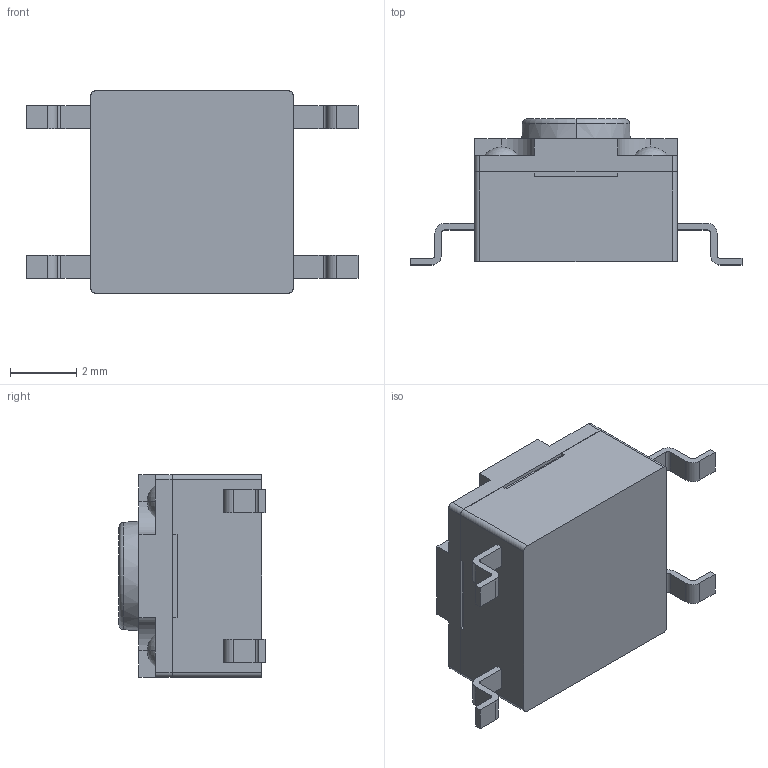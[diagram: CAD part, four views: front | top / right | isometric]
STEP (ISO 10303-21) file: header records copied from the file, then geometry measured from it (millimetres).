
FILE_DESCRIPTION (( 'STEP AP214' ), '1' );
FILE_NAME ('Same_Sky_TS08-66-43-BK-160-SMT-67-TR.step', '2025-02-12T16:34:19', ( '' ), ( '' ), 'SwSTEP 2.0', 'SolidWorks 2024', '' );
FILE_SCHEMA (( 'AUTOMOTIVE_DESIGN' ));
Length unit declared in the file: inch
Products named in the file (1): Same_Sky_TS08-66-43-BK-160-SMT-67-TR
Bounding box: 10 x 4.4 x 6.1 mm (x, y, z)
Volume: 138 mm3; surface area: 293.3 mm2
Topology: 7 solids, 7 shells, 125 faces, 320 edges, 214 vertices
Faces by surface type: plane 83, cylinder 30, sphere 8, cone 2, torus 2
Entity records: 3887 total; most frequent: CARTESIAN_POINT 660, DIRECTION 656, ORIENTED_EDGE 640, EDGE_CURVE 320, VECTOR 236, LINE 236, VERTEX_POINT 214, AXIS2_PLACEMENT_3D 210
